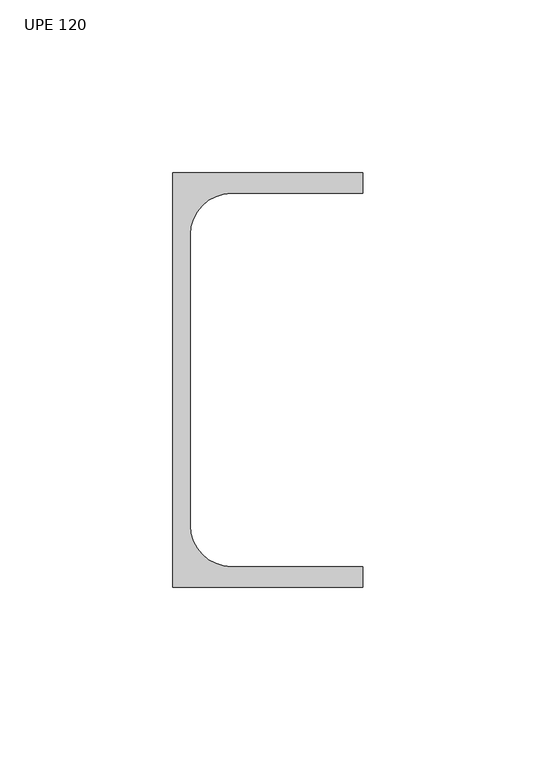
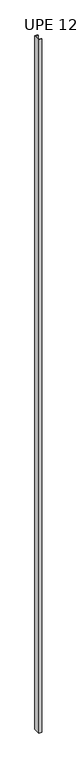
"""IFC4 building model written with IfcOpenShell, lengths in millimetres: column geometry, UPE - Canales de ala paralela - Pilar : UPE 120."""

from ifc_helpers import new_model, si_unit, point, frame_2d, origin, origin_with_axes, place, context, project, spatial, polyline, circle_curve, trimmed, segment, composite_curve, outline, extrude, source, transform, mapped, element, save


def upe_120_53fdf7fa(model_context):
    return source(origin(), model_context, "Body", "SweptSolid", [
        extrude(outline(composite_curve([segment(polyline([(-19.8, 60.0), (35.2, 60.0), (35.2, 54.0), (-2.8, 54.0)]), True, "CONTINUOUS"), segment(trimmed(circle_curve(frame_2d((-2.8, 42.0)), 12.0), [point((-2.8, 54.0))], [point((-14.8, 42.0))], True, "CARTESIAN"), True, "CONTINUOUS"), segment(polyline([(-14.8, 42.0), (-14.8, -42.0)]), True, "CONTINUOUS"), segment(trimmed(circle_curve(frame_2d((-2.8, -42.0)), 12.0), [point((-14.8, -42.0))], [point((-2.8, -54.0))], True, "CARTESIAN"), True, "CONTINUOUS"), segment(polyline([(-2.8, -54.0), (35.2, -54.0), (35.2, -60.0), (-19.8, -60.0), (-19.8, 60.0)]), True, "CONTINUOUS")], self_intersect=False)), origin_with_axes(), (0.0, 0.0, 1.0), 13070.0),
    ])


if __name__ == "__main__":
    model = new_model("IFC4")
    model_context = context("Model", 3, world=origin())
    ifc_project = project(units=[si_unit("LENGTHUNIT", "METRE", prefix="MILLI")], contexts=[model_context])
    site = spatial("IfcSite", under=ifc_project)
    building = spatial("IfcBuilding", under=site)
    placement = place(None, origin())
    upe_120_shape = upe_120_53fdf7fa(model_context)
    element("IfcColumn", 1, ObjectType="UPE - Canales de ala paralela - Pilar : UPE 120", at=placement, inside=building, context=model_context, shape_type="MappedRepresentation", body=[
        mapped(upe_120_shape, transform((0.0, 0.0, 0.0), x_axis=(1.0, 0.0, 0.0), y_axis=(0.0, 1.0, 0.0), z_axis=(0.0, 0.0, 1.0))),
    ])
    save(model, "model.ifc")
